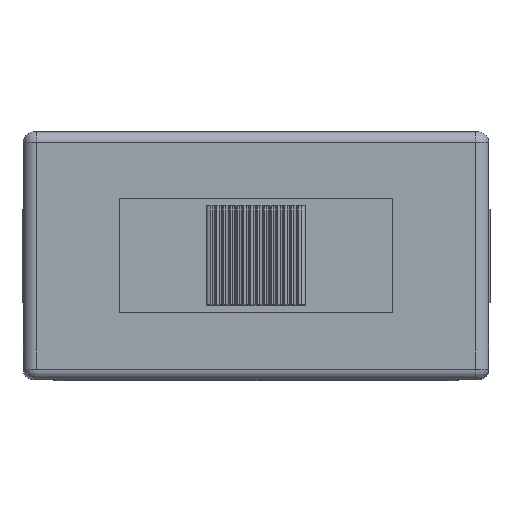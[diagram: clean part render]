
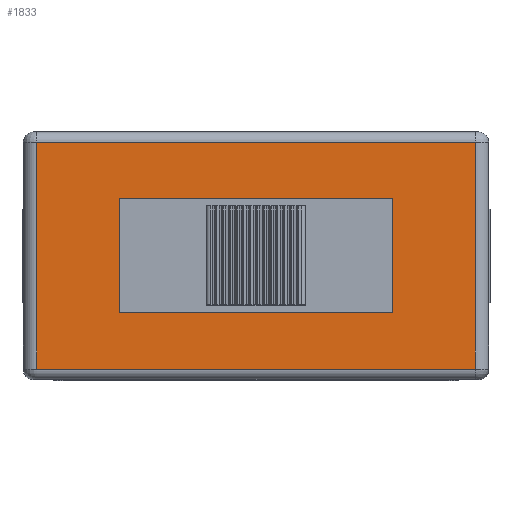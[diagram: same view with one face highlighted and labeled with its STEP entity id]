
A CAD part, top view. The second image highlights one B-rep face of the part: STEP entity #1833.
In plain terms, the highlighted planar face has unit normal (0, 0, 1).
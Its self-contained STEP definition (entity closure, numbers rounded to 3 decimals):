
#1741 = EDGE_CURVE('',#1742,#1744,#1746,.T.);
#1742 = VERTEX_POINT('',#1743);
#1743 = CARTESIAN_POINT('',(-2.147,1.722,8.05));
#1744 = VERTEX_POINT('',#1745);
#1745 = CARTESIAN_POINT('',(-2.147,-1.722,8.05));
#1746 = LINE('',#1747,#1748);
#1747 = CARTESIAN_POINT('',(-2.147,-3.75,8.05));
#1748 = VECTOR('',#1749,1.);
#1749 = DIRECTION('',(0.,-1.,0.));
#1772 = EDGE_CURVE('',#1744,#1773,#1775,.T.);
#1773 = VERTEX_POINT('',#1774);
#1774 = CARTESIAN_POINT('',(6.147,-1.722,8.05));
#1775 = LINE('',#1776,#1777);
#1776 = CARTESIAN_POINT('',(8.65,-1.722,8.05));
#1777 = VECTOR('',#1778,1.);
#1778 = DIRECTION('',(1.,0.,0.));
#1796 = EDGE_CURVE('',#1773,#1797,#1799,.T.);
#1797 = VERTEX_POINT('',#1798);
#1798 = CARTESIAN_POINT('',(6.147,1.722,8.05));
#1799 = LINE('',#1800,#1801);
#1800 = CARTESIAN_POINT('',(6.147,-3.75,8.05));
#1801 = VECTOR('',#1802,1.);
#1802 = DIRECTION('',(0.,1.,0.));
#1820 = EDGE_CURVE('',#1797,#1742,#1821,.T.);
#1821 = LINE('',#1822,#1823);
#1822 = CARTESIAN_POINT('',(8.65,1.722,8.05));
#1823 = VECTOR('',#1824,1.);
#1824 = DIRECTION('',(-1.,0.,0.));
#1833 = ADVANCED_FACE('',(#1834,#1840),#1874,.T.);
#1834 = FACE_BOUND('',#1835,.T.);
#1835 = EDGE_LOOP('',(#1836,#1837,#1838,#1839));
#1836 = ORIENTED_EDGE('',*,*,#1820,.F.);
#1837 = ORIENTED_EDGE('',*,*,#1796,.F.);
#1838 = ORIENTED_EDGE('',*,*,#1772,.F.);
#1839 = ORIENTED_EDGE('',*,*,#1741,.F.);
#1840 = FACE_BOUND('',#1841,.T.);
#1841 = EDGE_LOOP('',(#1842,#1852,#1860,#1868));
#1842 = ORIENTED_EDGE('',*,*,#1843,.T.);
#1843 = EDGE_CURVE('',#1844,#1846,#1848,.T.);
#1844 = VERTEX_POINT('',#1845);
#1845 = CARTESIAN_POINT('',(8.65,-3.438,8.05));
#1846 = VERTEX_POINT('',#1847);
#1847 = CARTESIAN_POINT('',(8.65,3.438,8.05));
#1848 = LINE('',#1849,#1850);
#1849 = CARTESIAN_POINT('',(8.65,-3.75,8.05));
#1850 = VECTOR('',#1851,1.);
#1851 = DIRECTION('',(0.,1.,0.));
#1852 = ORIENTED_EDGE('',*,*,#1853,.F.);
#1853 = EDGE_CURVE('',#1854,#1846,#1856,.T.);
#1854 = VERTEX_POINT('',#1855);
#1855 = CARTESIAN_POINT('',(-4.65,3.438,8.05));
#1856 = LINE('',#1857,#1858);
#1857 = CARTESIAN_POINT('',(8.65,3.438,8.05));
#1858 = VECTOR('',#1859,1.);
#1859 = DIRECTION('',(1.,0.,0.));
#1860 = ORIENTED_EDGE('',*,*,#1861,.F.);
#1861 = EDGE_CURVE('',#1862,#1854,#1864,.T.);
#1862 = VERTEX_POINT('',#1863);
#1863 = CARTESIAN_POINT('',(-4.65,-3.438,8.05));
#1864 = LINE('',#1865,#1866);
#1865 = CARTESIAN_POINT('',(-4.65,-3.75,8.05));
#1866 = VECTOR('',#1867,1.);
#1867 = DIRECTION('',(0.,1.,0.));
#1868 = ORIENTED_EDGE('',*,*,#1869,.T.);
#1869 = EDGE_CURVE('',#1862,#1844,#1870,.T.);
#1870 = LINE('',#1871,#1872);
#1871 = CARTESIAN_POINT('',(8.65,-3.438,8.05));
#1872 = VECTOR('',#1873,1.);
#1873 = DIRECTION('',(1.,0.,0.));
#1874 = PLANE('',#1875);
#1875 = AXIS2_PLACEMENT_3D('',#1876,#1877,#1878);
#1876 = CARTESIAN_POINT('',(8.65,-3.75,8.05));
#1877 = DIRECTION('',(0.,0.,1.));
#1878 = DIRECTION('',(1.,0.,0.));
